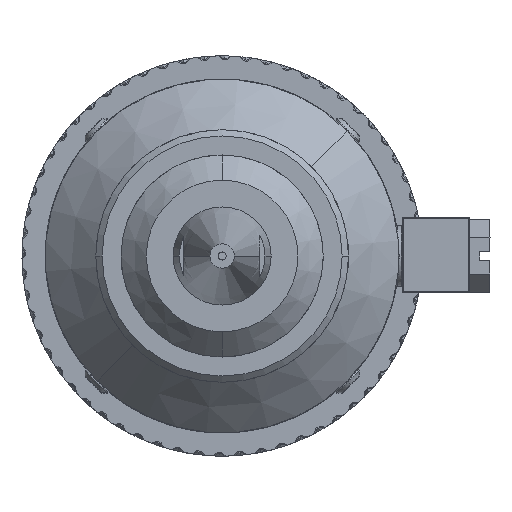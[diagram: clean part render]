
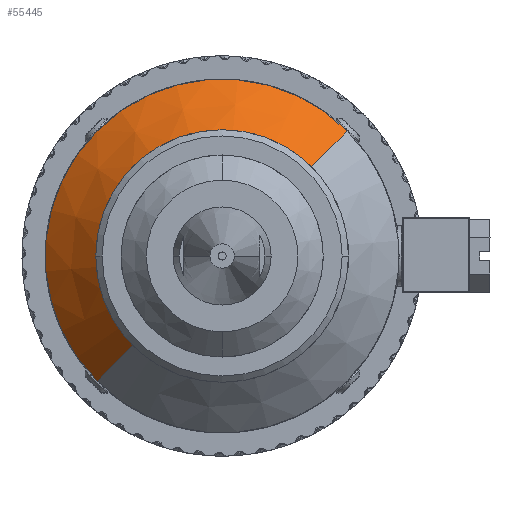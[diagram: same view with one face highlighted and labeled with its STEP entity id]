
A CAD part, front view. The second image highlights one B-rep face of the part: STEP entity #55445.
In plain terms, the highlighted conical face has half-angle 45 degrees and reference radius 15.875 mm.
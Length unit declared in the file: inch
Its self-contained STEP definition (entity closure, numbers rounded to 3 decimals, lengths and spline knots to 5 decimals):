
#1838 = CARTESIAN_POINT ( 'NONE',  ( 0.01844, -0.01771, -0.00073 ) ) ;
#2675 = CARTESIAN_POINT ( 'NONE',  ( 0.01844, 0.23229, -0.00073 ) ) ;
#4337 = CIRCLE ( 'NONE', #20917, 0.625 ) ;
#6735 = ORIENTED_EDGE ( 'NONE', *, *, #6982, .T. ) ;
#6982 = EDGE_CURVE ( 'NONE', #55124, #47269, #31865, .T. ) ;
#7674 = DIRECTION ( 'NONE',  ( 0.707, 0., 0.707 ) ) ;
#9717 = AXIS2_PLACEMENT_3D ( 'NONE', #2675, #43571, #20275 ) ;
#10241 = ORIENTED_EDGE ( 'NONE', *, *, #45486, .F. ) ;
#10973 = VECTOR ( 'NONE', #33911, 39.37008 ) ;
#13188 = CARTESIAN_POINT ( 'NONE',  ( -0.60028, 0.23229, -0.61945 ) ) ;
#13938 = CARTESIAN_POINT ( 'NONE',  ( 0.63716, 0.23229, 0.61799 ) ) ;
#14075 = EDGE_CURVE ( 'NONE', #34366, #55124, #52550, .T. ) ;
#14240 = DIRECTION ( 'NONE',  ( 0.5, 0.707, 0.5 ) ) ;
#16275 = FACE_OUTER_BOUND ( 'NONE', #43013, .T. ) ;
#20275 = DIRECTION ( 'NONE',  ( 0.707, 0., 0.707 ) ) ;
#20917 = AXIS2_PLACEMENT_3D ( 'NONE', #1838, #48158, #7674 ) ;
#23120 = DIRECTION ( 'NONE',  ( -0.707, 0., -0.707 ) ) ;
#28074 = AXIS2_PLACEMENT_3D ( 'NONE', #34604, #47205, #23120 ) ;
#31865 = CIRCLE ( 'NONE', #9717, 0.875 ) ;
#33911 = DIRECTION ( 'NONE',  ( -0.5, 0.707, -0.5 ) ) ;
#34366 = VERTEX_POINT ( 'NONE', #44367 ) ;
#34604 = CARTESIAN_POINT ( 'NONE',  ( 0.01844, -0.01771, -0.00073 ) ) ;
#38432 = CARTESIAN_POINT ( 'NONE',  ( -0.4235, -0.01771, -0.44267 ) ) ;
#43013 = EDGE_LOOP ( 'NONE', ( #10241, #48200, #6735, #60708 ) ) ;
#43432 = CARTESIAN_POINT ( 'NONE',  ( 0.46039, -0.01771, 0.44121 ) ) ;
#43571 = DIRECTION ( 'NONE',  ( 0., -1., 0. ) ) ;
#43657 = EDGE_CURVE ( 'NONE', #63585, #47269, #51313, .T. ) ;
#44367 = CARTESIAN_POINT ( 'NONE',  ( 0.46039, -0.01771, 0.44121 ) ) ;
#45486 = EDGE_CURVE ( 'NONE', #34366, #63585, #4337, .T. ) ;
#47205 = DIRECTION ( 'NONE',  ( 0., 1., 0. ) ) ;
#47269 = VERTEX_POINT ( 'NONE', #13188 ) ;
#48158 = DIRECTION ( 'NONE',  ( 0., -1., 0. ) ) ;
#48200 = ORIENTED_EDGE ( 'NONE', *, *, #14075, .T. ) ;
#51313 = LINE ( 'NONE', #55233, #10973 ) ;
#52550 = LINE ( 'NONE', #43432, #74489 ) ;
#55124 = VERTEX_POINT ( 'NONE', #13938 ) ;
#55233 = CARTESIAN_POINT ( 'NONE',  ( -0.4235, -0.01771, -0.44267 ) ) ;
#55445 = ADVANCED_FACE ( 'NONE', ( #16275 ), #56624, .T. ) ;
#56624 = CONICAL_SURFACE ( 'NONE', #28074, 0.625, 0.785 ) ;
#60708 = ORIENTED_EDGE ( 'NONE', *, *, #43657, .F. ) ;
#63585 = VERTEX_POINT ( 'NONE', #38432 ) ;
#74489 = VECTOR ( 'NONE', #14240, 39.37008 ) ;
